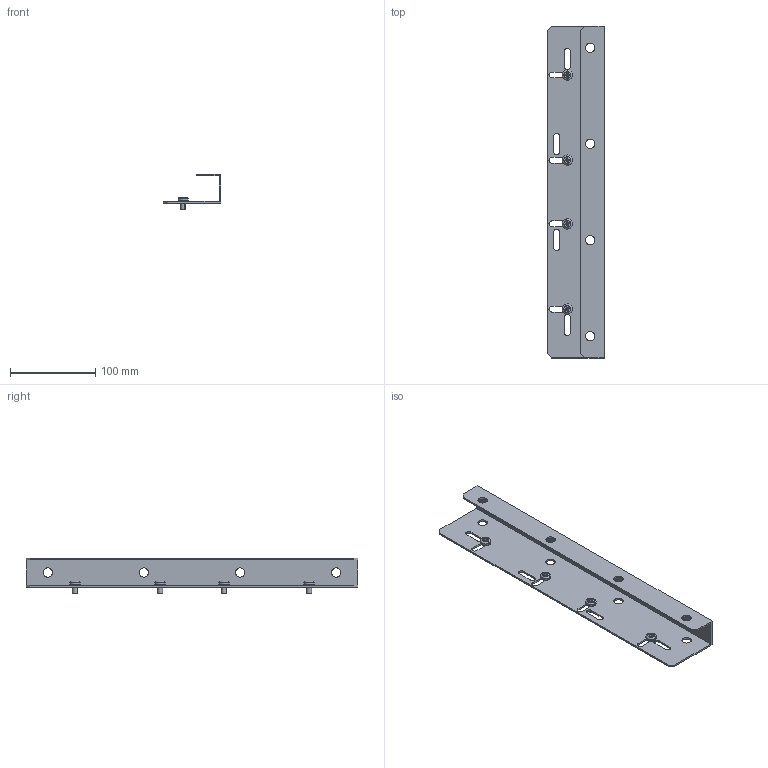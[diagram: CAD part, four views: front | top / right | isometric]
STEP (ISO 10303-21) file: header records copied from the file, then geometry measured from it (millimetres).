
FILE_DESCRIPTION (( 'STEP AP214' ), '1' );
FILE_NAME ('FO-00-SIE Êîìïëåêò ïëàíêè îïîðíûõ èçîëÿòîðîâ ARMAT ACB òèïîðàçìåð E (äî 2000À) 3II4P.STEP', '2025-08-04T10:56:20', ( '' ), ( '' ), 'SwSTEP 2.0', 'SolidWorks 2023', '' );
FILE_SCHEMA (( 'AUTOMOTIVE_DESIGN' ));
Length unit declared in the file: millimetre
Products named in the file (3): Комплект планки опорных изоляторов ARMAT ACB типоразмер E (до 2000А) 3II4P; FO-00-SIE Комплект планки опорных изоляторов ARMAT ACB типоразмер E (до 2000А) 3II4P; Винт М6х10 IEK
Assembly tree (5 placements, depth 2):
  FO-00-SIE Комплект планки опорных изоляторов ARMAT ACB типоразмер E (до 2000А) 3II4P
    Комплект планки опорных изоляторов ARMAT ACB типоразмер E (до 2000А) 3II4P
    Винт М6х10 IEK  x4
Bounding box: 67.5 x 390 x 42 mm (x, y, z)
Volume: 96628.8 mm3; surface area: 99922.8 mm2
Topology: 5 solids, 5 shells, 206 faces, 540 edges, 352 vertices
Faces by surface type: plane 86, cylinder 60, cone 44, torus 16
Entity records: 3865 total; most frequent: DIRECTION 673, CARTESIAN_POINT 668, ORIENTED_EDGE 630, EDGE_CURVE 315, AXIS2_PLACEMENT_3D 245, VERTEX_POINT 208, LINE 183, VECTOR 183
